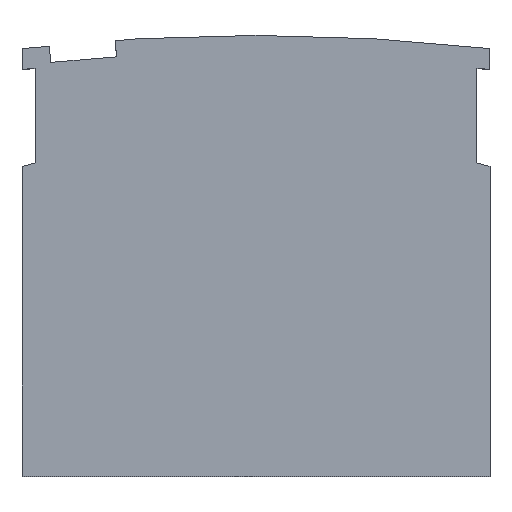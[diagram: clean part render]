
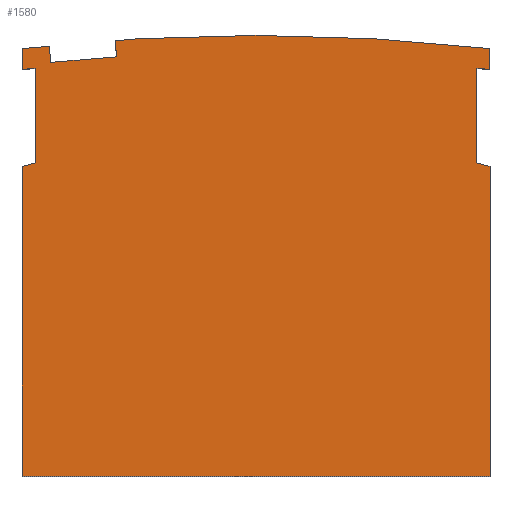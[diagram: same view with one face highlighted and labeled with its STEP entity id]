
A CAD part, top view. The second image highlights one B-rep face of the part: STEP entity #1580.
In plain terms, the highlighted planar face has unit normal (0, 0, 1) as drawn and (0, 0, -1) by its records, which use the part's own axes.
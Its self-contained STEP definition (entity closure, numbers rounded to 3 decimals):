
#10=CARTESIAN_POINT('',(87.714,62.724,
-51.15));
#20=DIRECTION('',(0.,0.,1.));
#30=DIRECTION('',(1.,0.,0.));
#40=AXIS2_PLACEMENT_3D('',#10,#20,#30);
#50=PLANE('',#40);
#60=CARTESIAN_POINT('',(48.192,0.,-51.15));
#70=DIRECTION('',(0.,1.,0.));
#80=VECTOR('',#70,1.);
#90=LINE('',#60,#80);
#100=CARTESIAN_POINT('',(48.192,66.856,
-51.15));
#110=VERTEX_POINT('',#100);
#120=CARTESIAN_POINT('',(48.192,75.924,
-51.15));
#130=VERTEX_POINT('',#120);
#140=EDGE_CURVE('',#110,#130,#90,.T.);
#150=ORIENTED_EDGE('',*,*,#140,.T.);
#160=CARTESIAN_POINT('',(0.,53.942,-51.15));
#170=DIRECTION('',(0.966,0.259,
0.));
#180=VECTOR('',#170,1.);
#190=LINE('',#160,#180);
#200=CARTESIAN_POINT('',(46.941,66.52,
-51.15));
#210=VERTEX_POINT('',#200);
#220=EDGE_CURVE('',#210,#110,#190,.T.);
#230=ORIENTED_EDGE('',*,*,#220,.T.);
#240=CARTESIAN_POINT('',(46.941,0.,-51.15));
#250=DIRECTION('',(0.,1.,-0.));
#260=VECTOR('',#250,1.);
#270=LINE('',#240,#260);
#280=CARTESIAN_POINT('',(46.941,36.856,
-51.15));
#290=VERTEX_POINT('',#280);
#300=EDGE_CURVE('',#290,#210,#270,.T.);
#310=ORIENTED_EDGE('',*,*,#300,.T.);
#320=CARTESIAN_POINT('',(0.,36.856,-51.15));
#330=DIRECTION('',(-1.,0.,0.));
#340=VECTOR('',#330,1.);
#350=LINE('',#320,#340);
#360=CARTESIAN_POINT('',(91.741,36.856,
-51.15));
#370=VERTEX_POINT('',#360);
#380=EDGE_CURVE('',#370,#290,#350,.T.);
#390=ORIENTED_EDGE('',*,*,#380,.T.);
#400=CARTESIAN_POINT('',(91.741,0.,-51.15));
#410=DIRECTION('',(0.,-1.,0.));
#420=VECTOR('',#410,1.);
#430=LINE('',#400,#420);
#440=CARTESIAN_POINT('',(91.741,66.52,
-51.15));
#450=VERTEX_POINT('',#440);
#460=EDGE_CURVE('',#450,#370,#430,.T.);
#470=ORIENTED_EDGE('',*,*,#460,.T.);
#480=CARTESIAN_POINT('',(0.,91.102,-51.15));
#490=DIRECTION('',(0.966,-0.259,
0.));
#500=VECTOR('',#490,1.);
#510=LINE('',#480,#500);
#520=CARTESIAN_POINT('',(90.49,66.856,
-51.15));
#530=VERTEX_POINT('',#520);
#540=EDGE_CURVE('',#530,#450,#510,.T.);
#550=ORIENTED_EDGE('',*,*,#540,.T.);
#560=CARTESIAN_POINT('',(90.49,0.,-51.15));
#570=DIRECTION('',(0.,-1.,0.));
#580=VECTOR('',#570,1.);
#590=LINE('',#560,#580);
#600=CARTESIAN_POINT('',(90.49,75.924,
-51.15));
#610=VERTEX_POINT('',#600);
#620=EDGE_CURVE('',#610,#530,#590,.T.);
#630=ORIENTED_EDGE('',*,*,#620,.T.);
#640=CARTESIAN_POINT('',(69.341,-120.944,
-51.15));
#650=DIRECTION('',(0.,0.,-1.));
#660=DIRECTION('',(-1.,0.,0.));
#670=AXIS2_PLACEMENT_3D('',#640,#650,#660);
#680=CIRCLE('',#670,198.);
#690=CARTESIAN_POINT('',(91.741,75.785,
-51.15));
#700=VERTEX_POINT('',#690);
#710=EDGE_CURVE('',#610,#700,#680,.T.);
#720=ORIENTED_EDGE('',*,*,#710,.F.);
#730=CARTESIAN_POINT('',(91.741,0.,-51.15));
#740=DIRECTION('',(0.,-1.,0.));
#750=VECTOR('',#740,1.);
#760=LINE('',#730,#750);
#770=CARTESIAN_POINT('',(91.741,77.798,
-51.15));
#780=VERTEX_POINT('',#770);
#790=EDGE_CURVE('',#780,#700,#760,.T.);
#800=ORIENTED_EDGE('',*,*,#790,.T.);
#810=CARTESIAN_POINT('',(0.,85.539,-51.15));
#820=DIRECTION('',(0.996,-0.084,
0.));
#830=VECTOR('',#820,1.);
#840=LINE('',#810,#830);
#850=CARTESIAN_POINT('',(89.122,78.019,
-51.15));
#860=VERTEX_POINT('',#850);
#870=EDGE_CURVE('',#860,#780,#840,.T.);
#880=ORIENTED_EDGE('',*,*,#870,.T.);
#890=CARTESIAN_POINT('',(82.61,0.,-51.15));
#900=DIRECTION('',(0.083,0.997,
0.));
#910=VECTOR('',#900,1.);
#920=LINE('',#890,#910);
#930=CARTESIAN_POINT('',(88.994,76.476,
-51.15));
#940=VERTEX_POINT('',#930);
#950=EDGE_CURVE('',#940,#860,#920,.T.);
#960=ORIENTED_EDGE('',*,*,#950,.T.);
#970=CARTESIAN_POINT('',(0.,83.905,-51.15));
#980=DIRECTION('',(0.997,-0.083,
0.));
#990=VECTOR('',#980,1.);
#1000=LINE('',#970,#990);
#1010=CARTESIAN_POINT('',(82.691,77.003,
-51.15));
#1020=VERTEX_POINT('',#1010);
#1030=EDGE_CURVE('',#1020,#940,#1000,.T.);
#1040=ORIENTED_EDGE('',*,*,#1030,.T.);
#1050=CARTESIAN_POINT('',(76.263,0.,-51.15));
#1060=DIRECTION('',(-0.083,-0.997,
0.));
#1070=VECTOR('',#1060,1.);
#1080=LINE('',#1050,#1070);
#1090=CARTESIAN_POINT('',(82.82,78.551,
-51.15));
#1100=VERTEX_POINT('',#1090);
#1110=EDGE_CURVE('',#1100,#1020,#1080,.T.);
#1120=ORIENTED_EDGE('',*,*,#1110,.T.);
#1130=CARTESIAN_POINT('',(80.559,78.741,
-51.15));
#1140=VERTEX_POINT('',#1130);
#1150=EDGE_CURVE('',#1140,#1100,#840,.T.);
#1160=ORIENTED_EDGE('',*,*,#1150,.T.);
#1170=CARTESIAN_POINT('',(0.,81.002,-51.15));
#1180=DIRECTION('',(1.,-0.028,
0.));
#1190=VECTOR('',#1180,1.);
#1200=LINE('',#1170,#1190);
#1210=CARTESIAN_POINT('',(69.341,79.056,
-51.15));
#1220=VERTEX_POINT('',#1210);
#1230=EDGE_CURVE('',#1220,#1140,#1200,.T.);
#1240=ORIENTED_EDGE('',*,*,#1230,.T.);
#1250=CARTESIAN_POINT('',(0.,77.11,-51.15));
#1260=DIRECTION('',(1.,0.028,
0.));
#1270=VECTOR('',#1260,1.);
#1280=LINE('',#1250,#1270);
#1290=CARTESIAN_POINT('',(58.124,78.741,
-51.15));
#1300=VERTEX_POINT('',#1290);
#1310=EDGE_CURVE('',#1300,#1220,#1280,.T.);
#1320=ORIENTED_EDGE('',*,*,#1310,.T.);
#1330=CARTESIAN_POINT('',(0.,73.837,-51.15));
#1340=DIRECTION('',(0.996,0.084,
0.));
#1350=VECTOR('',#1340,1.);
#1360=LINE('',#1330,#1350);
#1370=CARTESIAN_POINT('',(46.941,77.798,
-51.15));
#1380=VERTEX_POINT('',#1370);
#1390=EDGE_CURVE('',#1380,#1300,#1360,.T.);
#1400=ORIENTED_EDGE('',*,*,#1390,.T.);
#1410=CARTESIAN_POINT('',(46.941,0.,-51.15));
#1420=DIRECTION('',(0.,1.,0.));
#1430=VECTOR('',#1420,1.);
#1440=LINE('',#1410,#1430);
#1450=CARTESIAN_POINT('',(46.941,75.785,
-51.15));
#1460=VERTEX_POINT('',#1450);
#1470=EDGE_CURVE('',#1460,#1380,#1440,.T.);
#1480=ORIENTED_EDGE('',*,*,#1470,.T.);
#1490=CARTESIAN_POINT('',(69.341,-120.944,
-51.15));
#1500=DIRECTION('',(0.,0.,1.));
#1510=DIRECTION('',(1.,0.,0.));
#1520=AXIS2_PLACEMENT_3D('',#1490,#1500,#1510);
#1530=CIRCLE('',#1520,198.);
#1540=EDGE_CURVE('',#130,#1460,#1530,.T.);
#1550=ORIENTED_EDGE('',*,*,#1540,.T.);
#1560=EDGE_LOOP('',(#1550,#1480,#1400,#1320,#1240,#1160,#1120,#1040,#960
,#880,#800,#720,#630,#550,#470,#390,#310,#230,#150));
#1570=FACE_OUTER_BOUND('',#1560,.T.);
#1580=ADVANCED_FACE('',(#1570),#50,.F.);
